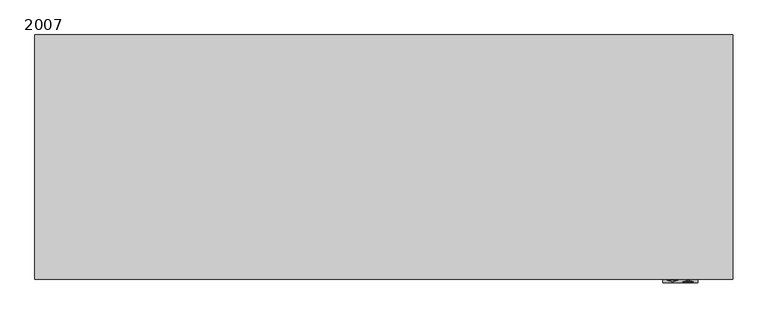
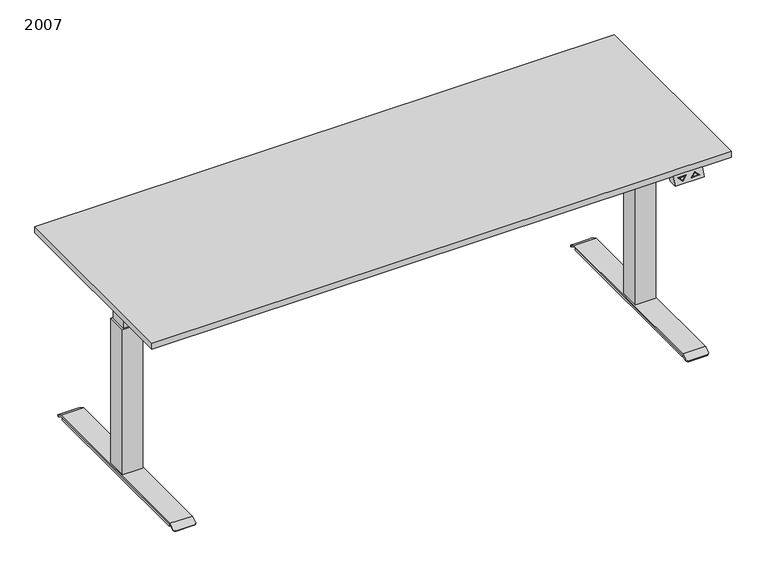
"""IFC4 building model written with IfcOpenShell, lengths in millimetres: furniture geometry, PINTA EQC : 2007."""

from ifc_helpers import new_model, si_unit, point, frame, frame_2d, origin, origin_with_axes, place, context, project, spatial, polyline, circle_curve, trimmed, segment, composite_curve, outline, extrude, faceted_brep, source, transform, mapped, element, save
from ifc_brep_helpers import plane_surface, cylinder_surface, advanced_brep


def furniture_2007_aee1811a(model_context):
    return source(origin(), model_context, "Body", "SolidModel", [
        faceted_brep([(800.0, -710.0, 668.0), (800.0, -680.0, 668.0), (900.0, -680.0, 668.0), (900.0, -710.0, 668.0), (800.0, -700.0, 698.0), (900.0, -700.0, 698.0), (900.0, -670.0, 698.0), (800.0, -670.0, 698.0), (812.5, -702.6491106, 690.0526681), (842.5, -702.6491106, 690.0526681), (827.5, -707.3925271, 675.8224186), (887.5, -706.9174824, 677.2475529), (857.5, -706.9174824, 677.2475529), (872.5, -702.1740659, 691.4778023), (827.5, -706.4980999, 678.5057002), (837.6715729, -703.2815662, 688.1553015), (817.3284271, -703.2815662, 688.1553015), (882.6715729, -706.2850268, 679.1449195), (872.5, -703.0684931, 688.7945208), (862.3284271, -706.2850268, 679.1449195), (842.5, -701.7004273, 689.7364403), (812.5, -701.7004273, 689.7364403), (827.5, -706.4438438, 675.5061908), (837.6715729, -702.3328829, 687.8390737), (827.5, -705.5494166, 678.1894724), (817.3284271, -702.3328829, 687.8390737), (857.5, -705.9687991, 676.9313251), (887.5, -705.9687991, 676.9313251), (872.5, -701.2253826, 691.1615746), (872.5, -702.1198098, 688.478293), (882.6715729, -705.3363436, 678.8286917), (862.3284271, -705.3363436, 678.8286917)], [[[0, 1, 2, 3]], [[4, 5, 6, 7]], [[1, 0, 4, 7]], [[3, 2, 6, 5]], [[0, 3, 5, 4], [8, 9, 10], [11, 12, 13]], [[14, 15, 16]], [[17, 18, 19]], [[2, 1, 7, 6]], [[20, 21, 22], [23, 24, 25]], [[26, 27, 28], [29, 30, 31]], [[21, 20, 9, 8]], [[22, 21, 8, 10]], [[20, 22, 10, 9]], [[27, 26, 12, 11]], [[28, 27, 11, 13]], [[26, 28, 13, 12]], [[24, 23, 15, 14]], [[25, 24, 14, 16]], [[23, 25, 16, 15]], [[30, 29, 18, 17]], [[31, 30, 17, 19]], [[29, 31, 19, 18]]]),
        extrude(outline(polyline([(-920.0, -269.7732113), (920.0, -269.7733158), (920.0, -289.7733158), (-920.0, -289.7732113), (-920.0, -269.7732113)])), frame((0.0, 0.0, 658.0), z_axis=(0.0, 0.0, 1.0), x_axis=(1.0, 0.0, 0.0)), (0.0, 0.0, 1.0), 40.0),
        extrude(outline(polyline([(-920.0, -409.7732114), (920.0, -409.7733158), (920.0, -429.7733158), (-920.0, -429.7732114), (-920.0, -409.7732114)])), frame((0.0, 0.0, 658.0), z_axis=(0.0, 0.0, 1.0), x_axis=(1.0, 0.0, 0.0)), (0.0, 0.0, 1.0), 40.0),
        extrude(outline(polyline([(-1000.0, -700.0), (-1000.0, 0.0), (1000.0, 0.0), (1000.0, -700.0), (-1000.0, -700.0)])), frame((0.0, 0.0, 698.0), z_axis=(0.0, 0.0, 1.0), x_axis=(1.0, 0.0, 0.0)), (0.0, 0.0, 1.0), 22.0),
        advanced_brep(
        [(846.9772339, -670.0, 6.0), (846.9772339, -670.0, 16.0), (846.9772339, -30.0, 16.0), (846.9772339, -30.0, 6.0), (923.0227661, -30.0, 16.0), (923.0227661, -30.0, 6.0), (923.0227661, -670.0, 16.0), (923.0227661, -670.0, 6.0), (846.0, -25.0, 20.0), (846.0, -6.9800481, 9.908827), (846.0, -8.9344616, 6.4188029), (846.0, -26.0437422, 16.0), (846.0, -673.9562578, 16.0), (846.0, -691.0655384, 6.4188029), (846.0, -693.0199519, 9.908827), (846.0, -675.0, 20.0), (924.0, -26.0437422, 16.0), (924.0, -8.9344616, 6.4188029), (924.0, -6.9800481, 9.908827), (924.0, -25.0, 20.0), (924.0, -675.0, 20.0), (924.0, -693.0199519, 9.908827), (924.0, -691.0655384, 6.4188029), (924.0, -673.9562578, 16.0), (854.0, -700.0, 6.0), (916.0, -700.0, 6.0), (854.0, -698.0455865, 2.5099759), (916.0, -698.0455865, 2.5099759), (854.0, -1.9544135, 2.5099759), (916.0, -1.9544135, 2.5099759), (854.0, 0.0, 6.0), (916.0, 0.0, 6.0)],
        [
            (0, 1),
            (1, 2),
            (2, 3),
            (3, 0),
            (2, 4),
            (4, 5),
            (5, 3),
            (4, 6),
            (6, 7),
            (7, 5),
            (6, 1),
            (0, 7),
            (8, 9),
            (9, 10),
            (10, 11),
            (11, 12),
            (12, 13),
            (13, 14),
            (14, 15),
            (15, 8),
            (16, 17),
            (17, 18),
            (18, 19),
            (19, 20),
            (20, 21),
            (21, 22),
            (22, 23),
            (23, 16),
            (15, 20),
            (19, 8),
            (11, 16),
            (23, 12),
            (14, 24, circle_curve(frame((854.0, -693.0199519, 9.908827), z_axis=(0.0, -0.4886033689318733, 0.8725060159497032), x_axis=(0.0, 0.8725060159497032, 0.4886033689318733)), 8.0)),
            (24, 25),
            (25, 21, circle_curve(frame((916.0, -693.0199519, 9.908827), z_axis=(0.0, -0.4886033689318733, 0.8725060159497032), x_axis=(0.0, 0.8725060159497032, 0.4886033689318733)), 8.0)),
            (24, 26),
            (26, 27),
            (27, 25),
            (22, 27, circle_curve(frame((916.0, -691.0655384, 6.4188029), z_axis=(0.0, 0.4886033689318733, -0.8725060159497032), x_axis=(0.0, 0.8725060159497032, 0.4886033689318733)), 8.0)),
            (26, 13, circle_curve(frame((854.0, -691.0655384, 6.4188029), z_axis=(0.0, 0.4886033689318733, -0.8725060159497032), x_axis=(0.0, 0.8725060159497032, 0.4886033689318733)), 8.0)),
            (10, 28, circle_curve(frame((854.0, -8.9344616, 6.4188029), z_axis=(0.0, -0.4886033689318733, -0.8725060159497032), x_axis=(0.0, -0.8725060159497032, 0.4886033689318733)), 8.0)),
            (28, 29),
            (29, 17, circle_curve(frame((916.0, -8.9344616, 6.4188029), z_axis=(0.0, -0.4886033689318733, -0.8725060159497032), x_axis=(0.0, -0.8725060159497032, 0.4886033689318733)), 8.0)),
            (28, 30),
            (30, 31),
            (31, 29),
            (18, 31, circle_curve(frame((916.0, -6.9800481, 9.908827), z_axis=(0.0, 0.4886033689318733, 0.8725060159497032), x_axis=(0.0, -0.8725060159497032, 0.4886033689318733)), 8.0)),
            (30, 9, circle_curve(frame((854.0, -6.9800481, 9.908827), z_axis=(0.0, 0.4886033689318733, 0.8725060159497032), x_axis=(0.0, -0.8725060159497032, 0.4886033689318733)), 8.0)),
        ],
        [
            plane_surface(frame((846.9772339, -670.0, 16.0), z_axis=(-1.0, 0.0, 0.0), x_axis=(0.0, 0.0, -1.0))),
            plane_surface(frame((846.9772339, -30.0, 16.0), z_axis=(0.0, 1.0, 0.0), x_axis=(0.0, 0.0, -1.0))),
            plane_surface(frame((923.0227661, -30.0, 16.0), z_axis=(1.0, 0.0, 0.0), x_axis=(0.0, 0.0, -1.0))),
            plane_surface(frame((923.0227661, -670.0, 16.0), z_axis=(0.0, -1.0, 0.0), x_axis=(0.0, 0.0, -1.0))),
            plane_surface(frame((846.9772339, -673.4188232, 6.0), z_axis=(0.0, 0.0, -1.0), x_axis=(0.0, -1.0, 0.0))),
            plane_surface(frame((846.0, -350.0, 20.0), z_axis=(-1.0, 0.0, 0.0), x_axis=(0.0, -1.0, 0.0))),
            plane_surface(frame((924.0, -350.0, 20.0), z_axis=(1.0, 0.0, 0.0), x_axis=(0.0, 1.0, 0.0))),
            plane_surface(frame((846.0, -25.0, 20.0), z_axis=(0.0, 0.0, 1.0), x_axis=(1.0, 0.0, 0.0))),
            plane_surface(frame((846.0, -673.9562578, 16.0), z_axis=(0.0, 0.0, -1.0), x_axis=(1.0, 0.0, 0.0))),
            plane_surface(frame((846.0, -675.0, 20.0), z_axis=(0.0, -0.4886033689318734, 0.8725060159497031), x_axis=(1.0, 0.0, 0.0))),
            plane_surface(frame((846.0, -700.0, 6.0), z_axis=(0.0, -0.872506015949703, -0.4886033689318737), x_axis=(1.0, 0.0, 0.0))),
            plane_surface(frame((846.0, -698.0455865, 2.5099759), z_axis=(0.0, 0.4886033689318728, -0.8725060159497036), x_axis=(1.0, 0.0, 0.0))),
            plane_surface(frame((846.0, -26.0437422, 16.0), z_axis=(0.0, -0.4886033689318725, -0.8725060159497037), x_axis=(1.0, 0.0, 0.0))),
            plane_surface(frame((846.0, -1.9544135, 2.5099759), z_axis=(0.0, 0.8725060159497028, -0.48860336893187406), x_axis=(1.0, 0.0, 0.0))),
            plane_surface(frame((846.0, 0.0, 6.0), z_axis=(0.0, 0.48860336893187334, 0.8725060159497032), x_axis=(1.0, 0.0, 0.0))),
            cylinder_surface(frame((854.0, -693.0199519, 9.908827), z_axis=(0.0, -0.4886033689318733, 0.8725060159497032), x_axis=(0.0, 0.8725060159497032, 0.4886033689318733)), 8.0),
            cylinder_surface(frame((916.0, -693.0199519, 9.908827), z_axis=(0.0, -0.4886033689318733, 0.8725060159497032), x_axis=(0.0, 0.8725060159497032, 0.4886033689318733)), 8.0),
            cylinder_surface(frame((854.0, -6.9800481, 9.908827), z_axis=(0.0, 0.4886033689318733, 0.8725060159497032), x_axis=(0.0, -0.8725060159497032, 0.4886033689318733)), 8.0),
            cylinder_surface(frame((916.0, -6.9800481, 9.908827), z_axis=(0.0, 0.4886033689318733, 0.8725060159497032), x_axis=(0.0, -0.8725060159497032, 0.4886033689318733)), 8.0),
        ],
        [
            (0, [[1, 2, 3, 4]]),
            (1, [[-3, 5, 6, 7]]),
            (2, [[-6, 8, 9, 10]]),
            (3, [[-9, 11, -1, 12]]),
            (4, [[-4, -7, -10, -12]]),
            (5, [[13, 14, 15, 16, 17, 18, 19, 20]]),
            (6, [[21, 22, 23, 24, 25, 26, 27, 28]]),
            (7, [[29, -24, 30, -20]]),
            (8, [[31, -28, 32, -16], [-11, -8, -5, -2]]),
            (9, [[-19, 33, 34, 35, -25, -29]]),
            (10, [[36, 37, 38, -34]]),
            (11, [[-27, 39, -37, 40, -17, -32]]),
            (12, [[-15, 41, 42, 43, -21, -31]]),
            (13, [[44, 45, 46, -42]]),
            (14, [[-23, 47, -45, 48, -13, -30]]),
            (15, [[-40, -36, -33, -18]]),
            (16, [[-35, -38, -39, -26]]),
            (17, [[-48, -44, -41, -14]]),
            (18, [[-43, -46, -47, -22]]),
        ],
    ),
        faceted_brep([(719.4551307, -410.0, 698.0), (902.9996948, -410.0, 698.0), (902.9996948, -650.0, 698.0), (919.4551307, -650.0, 698.0), (923.0, -650.0, 698.0), (923.0, -50.0, 698.0), (919.4551307, -50.0, 698.0), (902.9996948, -50.0, 698.0), (902.9996948, -290.0, 698.0), (719.4551307, -290.0, 698.0), (719.4551307, -410.0, 635.2327881), (719.4551307, -290.0, 635.2327881), (919.4551307, -290.0, 635.2327881), (919.4551307, -253.8252348, 635.2327881), (923.0, -253.8252348, 635.2327881), (923.0, -446.1747652, 635.2327881), (919.4551307, -446.1747652, 635.2327881), (919.4551307, -410.0, 635.2327881), (902.9996948, -290.0, 694.9093018), (919.4551307, -290.0, 694.9093018), (919.4551307, -410.0, 694.9093018), (902.9996948, -410.0, 694.9093018), (919.4551307, -650.0, 694.9093018), (902.9996948, -650.0, 694.9093018), (919.4551307, -50.0, 694.9093018), (902.9996948, -50.0, 694.9093018), (919.4551307, -51.1249222, 694.9093018), (919.4551307, -648.8750778, 694.9093018), (919.4551307, -58.5505036, 674.5076845), (919.4551307, -641.4494964, 674.5076845), (923.0, -58.5505036, 674.5076845), (923.0, -641.4494964, 674.5076845)], [[[0, 1, 2, 3, 4, 5, 6, 7, 8, 9]], [[10, 11, 12, 13, 14, 15, 16, 17]], [[9, 11, 10, 0]], [[11, 9, 8, 18, 19, 12]], [[17, 20, 21, 1, 0, 10]], [[22, 3, 2, 23]], [[24, 25, 7, 6]], [[24, 26, 19, 18, 25]], [[23, 21, 20, 27, 22]], [[2, 1, 21, 23]], [[25, 18, 8, 7]], [[13, 12, 19, 26, 28]], [[29, 27, 20, 17, 16]], [[15, 14, 30, 5, 4, 31]], [[16, 15, 31, 29]], [[22, 27, 3]], [[6, 26, 24]], [[4, 3, 27, 29, 31]], [[28, 30, 14, 13]], [[30, 28, 26, 6, 5]]]),
        extrude(outline(composite_curve([segment(trimmed(circle_curve(frame_2d((885.0, -655.0)), 25.0), [point((910.0, -655.0))], [point((860.0, -655.0))], False, "CARTESIAN"), True, "CONTINUOUS"), segment(trimmed(circle_curve(frame_2d((885.0, -655.0)), 25.0), [point((860.0, -655.0))], [point((910.0, -655.0))], False, "CARTESIAN"), True, "CONTINUOUS")], self_intersect=False)), origin_with_axes(), (0.0, 0.0, 1.0), 6.0),
        extrude(outline(composite_curve([segment(trimmed(circle_curve(frame_2d((885.0, -45.0)), 25.0), [point((910.0, -45.0))], [point((860.0, -45.0))], False, "CARTESIAN"), True, "CONTINUOUS"), segment(trimmed(circle_curve(frame_2d((885.0, -45.0)), 25.0), [point((860.0, -45.0))], [point((910.0, -45.0))], False, "CARTESIAN"), True, "CONTINUOUS")], self_intersect=False)), origin_with_axes(), (0.0, 0.0, 1.0), 6.0),
        faceted_brep([(850.0, -315.0, 550.0), (850.0, -384.9621325, 550.0), (920.0, -384.9621325, 550.0), (920.0, -315.0, 550.0), (915.0, -320.0, 550.0), (915.0, -379.9621325, 550.0), (855.0, -379.9621325, 550.0), (855.0, -320.0, 550.0), (850.0, -315.0, 20.0), (920.0, -315.0, 20.0), (920.0, -384.9621325, 20.0), (850.0, -384.9621325, 20.0), (855.0, -320.0, 592.616394), (855.0, -379.9621325, 592.616394), (915.0, -379.9621325, 592.616394), (915.0, -320.0, 592.616394), (910.0, -325.0, 592.616394), (910.0, -374.9621325, 592.616394), (860.0, -374.9621325, 592.616394), (860.0, -325.0, 592.616394), (860.0, -325.0, 635.2327881), (860.0, -374.9621325, 635.2327881), (910.0, -374.9621325, 635.2327881), (910.0, -325.0, 635.2327881)], [[[0, 1, 2, 3], [4, 5, 6, 7]], [[8, 9, 10, 11]], [[3, 9, 8, 0]], [[2, 10, 9, 3]], [[1, 11, 10, 2]], [[0, 8, 11, 1]], [[12, 13, 14, 15], [16, 17, 18, 19]], [[15, 4, 7, 12]], [[14, 5, 4, 15]], [[13, 6, 5, 14]], [[12, 7, 6, 13]], [[20, 21, 22, 23]], [[23, 16, 19, 20]], [[22, 17, 16, 23]], [[21, 18, 17, 22]], [[20, 19, 18, 21]]]),
        advanced_brep(
        [(-846.9772339, -670.0, 6.0), (-846.9772339, -30.0, 6.0), (-846.9772339, -30.0, 16.0), (-846.9772339, -670.0, 16.0), (-923.0227661, -30.0, 6.0), (-923.0227661, -30.0, 16.0), (-923.0227661, -670.0, 6.0), (-923.0227661, -670.0, 16.0), (-846.0, -25.0, 20.0), (-846.0, -675.0, 20.0), (-846.0, -693.0199519, 9.908827), (-846.0, -691.0655384, 6.4188029), (-846.0, -673.9562578, 16.0), (-846.0, -26.0437422, 16.0), (-846.0, -8.9344616, 6.4188029), (-846.0, -6.9800481, 9.908827), (-924.0, -26.0437422, 16.0), (-924.0, -673.9562578, 16.0), (-924.0, -691.0655384, 6.4188029), (-924.0, -693.0199519, 9.908827), (-924.0, -675.0, 20.0), (-924.0, -25.0, 20.0), (-924.0, -6.9800481, 9.908827), (-924.0, -8.9344616, 6.4188029), (-916.0, -700.0, 6.0), (-854.0, -700.0, 6.0), (-916.0, -698.0455865, 2.5099759), (-854.0, -698.0455865, 2.5099759), (-916.0, -1.9544135, 2.5099759), (-854.0, -1.9544135, 2.5099759), (-916.0, 0.0, 6.0), (-854.0, 0.0, 6.0)],
        [
            (0, 1),
            (1, 2),
            (2, 3),
            (3, 0),
            (1, 4),
            (4, 5),
            (5, 2),
            (4, 6),
            (6, 7),
            (7, 5),
            (6, 0),
            (3, 7),
            (8, 9),
            (9, 10),
            (10, 11),
            (11, 12),
            (12, 13),
            (13, 14),
            (14, 15),
            (15, 8),
            (16, 17),
            (17, 18),
            (18, 19),
            (19, 20),
            (20, 21),
            (21, 22),
            (22, 23),
            (23, 16),
            (8, 21),
            (20, 9),
            (12, 17),
            (16, 13),
            (19, 24, circle_curve(frame((-916.0, -693.0199519, 9.908827), z_axis=(0.0, -0.4886033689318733, 0.8725060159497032), x_axis=(0.0, 0.8725060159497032, 0.4886033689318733)), 8.0)),
            (24, 25),
            (25, 10, circle_curve(frame((-854.0, -693.0199519, 9.908827), z_axis=(0.0, -0.4886033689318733, 0.8725060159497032), x_axis=(0.0, 0.8725060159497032, 0.4886033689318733)), 8.0)),
            (24, 26),
            (26, 27),
            (27, 25),
            (11, 27, circle_curve(frame((-854.0, -691.0655384, 6.4188029), z_axis=(0.0, 0.4886033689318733, -0.8725060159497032), x_axis=(0.0, 0.8725060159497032, 0.4886033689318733)), 8.0)),
            (26, 18, circle_curve(frame((-916.0, -691.0655384, 6.4188029), z_axis=(0.0, 0.4886033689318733, -0.8725060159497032), x_axis=(0.0, 0.8725060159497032, 0.4886033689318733)), 8.0)),
            (23, 28, circle_curve(frame((-916.0, -8.9344616, 6.4188029), z_axis=(0.0, -0.4886033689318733, -0.8725060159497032), x_axis=(0.0, -0.8725060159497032, 0.4886033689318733)), 8.0)),
            (28, 29),
            (29, 14, circle_curve(frame((-854.0, -8.9344616, 6.4188029), z_axis=(0.0, -0.4886033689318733, -0.8725060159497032), x_axis=(0.0, -0.8725060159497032, 0.4886033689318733)), 8.0)),
            (28, 30),
            (30, 31),
            (31, 29),
            (15, 31, circle_curve(frame((-854.0, -6.9800481, 9.908827), z_axis=(0.0, 0.4886033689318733, 0.8725060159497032), x_axis=(0.0, -0.8725060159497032, 0.4886033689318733)), 8.0)),
            (30, 22, circle_curve(frame((-916.0, -6.9800481, 9.908827), z_axis=(0.0, 0.4886033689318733, 0.8725060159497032), x_axis=(0.0, -0.8725060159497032, 0.4886033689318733)), 8.0)),
        ],
        [
            plane_surface(frame((-846.9772339, -670.0, 16.0), z_axis=(1.0, 0.0, 0.0), x_axis=(0.0, 0.0, -1.0))),
            plane_surface(frame((-846.9772339, -30.0, 16.0), z_axis=(0.0, 1.0, 0.0), x_axis=(0.0, 0.0, -1.0))),
            plane_surface(frame((-923.0227661, -30.0, 16.0), z_axis=(-1.0, 0.0, 0.0), x_axis=(0.0, 0.0, -1.0))),
            plane_surface(frame((-923.0227661, -670.0, 16.0), z_axis=(0.0, -1.0, 0.0), x_axis=(0.0, 0.0, -1.0))),
            plane_surface(frame((-846.9772339, -673.4188232, 6.0), z_axis=(0.0, 0.0, -1.0), x_axis=(0.0, -1.0, 0.0))),
            plane_surface(frame((-846.0, -350.0, 20.0), z_axis=(1.0, 0.0, 0.0), x_axis=(0.0, -1.0, 0.0))),
            plane_surface(frame((-924.0, -350.0, 20.0), z_axis=(-1.0, 0.0, 0.0), x_axis=(0.0, 1.0, 0.0))),
            plane_surface(frame((-846.0, -25.0, 20.0), z_axis=(0.0, 0.0, 1.0), x_axis=(-1.0, 0.0, 0.0))),
            plane_surface(frame((-846.0, -673.9562578, 16.0), z_axis=(0.0, 0.0, -1.0), x_axis=(-1.0, 0.0, 0.0))),
            plane_surface(frame((-846.0, -675.0, 20.0), z_axis=(0.0, -0.4886033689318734, 0.8725060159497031), x_axis=(-1.0, 0.0, 0.0))),
            plane_surface(frame((-846.0, -700.0, 6.0), z_axis=(0.0, -0.872506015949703, -0.4886033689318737), x_axis=(-1.0, 0.0, 0.0))),
            plane_surface(frame((-846.0, -698.0455865, 2.5099759), z_axis=(0.0, 0.4886033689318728, -0.8725060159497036), x_axis=(-1.0, 0.0, 0.0))),
            plane_surface(frame((-846.0, -26.0437422, 16.0), z_axis=(0.0, -0.4886033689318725, -0.8725060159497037), x_axis=(-1.0, 0.0, 0.0))),
            plane_surface(frame((-846.0, -1.9544135, 2.5099759), z_axis=(0.0, 0.8725060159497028, -0.48860336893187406), x_axis=(-1.0, 0.0, 0.0))),
            plane_surface(frame((-846.0, 0.0, 6.0), z_axis=(0.0, 0.48860336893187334, 0.8725060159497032), x_axis=(-1.0, 0.0, 0.0))),
            cylinder_surface(frame((-854.0, -693.0199519, 9.908827), z_axis=(0.0, -0.4886033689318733, 0.8725060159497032), x_axis=(0.0, 0.8725060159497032, 0.4886033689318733)), 8.0),
            cylinder_surface(frame((-916.0, -693.0199519, 9.908827), z_axis=(0.0, -0.4886033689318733, 0.8725060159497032), x_axis=(0.0, 0.8725060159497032, 0.4886033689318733)), 8.0),
            cylinder_surface(frame((-854.0, -6.9800481, 9.908827), z_axis=(0.0, 0.4886033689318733, 0.8725060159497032), x_axis=(0.0, -0.8725060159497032, 0.4886033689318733)), 8.0),
            cylinder_surface(frame((-916.0, -6.9800481, 9.908827), z_axis=(0.0, 0.4886033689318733, 0.8725060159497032), x_axis=(0.0, -0.8725060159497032, 0.4886033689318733)), 8.0),
        ],
        [
            (0, [[1, 2, 3, 4]]),
            (1, [[5, 6, 7, -2]]),
            (2, [[8, 9, 10, -6]]),
            (3, [[11, -4, 12, -9]]),
            (4, [[-11, -8, -5, -1]]),
            (5, [[13, 14, 15, 16, 17, 18, 19, 20]]),
            (6, [[21, 22, 23, 24, 25, 26, 27, 28]]),
            (7, [[-13, 29, -25, 30]]),
            (8, [[-17, 31, -21, 32], [-3, -7, -10, -12]]),
            (9, [[-30, -24, 33, 34, 35, -14]]),
            (10, [[-34, 36, 37, 38]]),
            (11, [[-31, -16, 39, -37, 40, -22]]),
            (12, [[-32, -28, 41, 42, 43, -18]]),
            (13, [[-42, 44, 45, 46]]),
            (14, [[-29, -20, 47, -45, 48, -26]]),
            (15, [[-15, -35, -38, -39]]),
            (16, [[-23, -40, -36, -33]]),
            (17, [[-19, -43, -46, -47]]),
            (18, [[-27, -48, -44, -41]]),
        ],
    ),
        faceted_brep([(-719.4551307, -410.0, 698.0), (-719.4551307, -290.0, 698.0), (-902.9996948, -290.0, 698.0), (-902.9996948, -50.0, 698.0), (-919.4551307, -50.0, 698.0), (-923.0, -50.0, 698.0), (-923.0, -650.0, 698.0), (-919.4551307, -650.0, 698.0), (-902.9996948, -650.0, 698.0), (-902.9996948, -410.0, 698.0), (-719.4551307, -410.0, 635.2327881), (-919.4551307, -410.0, 635.2327881), (-919.4551307, -446.1747652, 635.2327881), (-923.0, -446.1747652, 635.2327881), (-923.0, -253.8252348, 635.2327881), (-919.4551307, -253.8252348, 635.2327881), (-919.4551307, -290.0, 635.2327881), (-719.4551307, -290.0, 635.2327881), (-919.4551307, -290.0, 694.9093018), (-902.9996948, -290.0, 694.9093018), (-902.9996948, -410.0, 694.9093018), (-919.4551307, -410.0, 694.9093018), (-919.4551307, -650.0, 694.9093018), (-902.9996948, -650.0, 694.9093018), (-919.4551307, -50.0, 694.9093018), (-902.9996948, -50.0, 694.9093018), (-919.4551307, -648.8750778, 694.9093018), (-919.4551307, -51.1249222, 694.9093018), (-919.4551307, -641.4494964, 674.5076845), (-919.4551307, -58.5505036, 674.5076845), (-923.0, -641.4494964, 674.5076845), (-923.0, -58.5505036, 674.5076845)], [[[0, 1, 2, 3, 4, 5, 6, 7, 8, 9]], [[10, 11, 12, 13, 14, 15, 16, 17]], [[1, 0, 10, 17]], [[17, 16, 18, 19, 2, 1]], [[11, 10, 0, 9, 20, 21]], [[22, 23, 8, 7]], [[24, 4, 3, 25]], [[23, 22, 26, 21, 20]], [[24, 25, 19, 18, 27]], [[8, 23, 20, 9]], [[25, 3, 2, 19]], [[28, 12, 11, 21, 26]], [[15, 29, 27, 18, 16]], [[13, 30, 6, 5, 31, 14]], [[12, 28, 30, 13]], [[22, 7, 26]], [[4, 24, 27]], [[6, 30, 28, 26, 7]], [[29, 15, 14, 31]], [[31, 5, 4, 27, 29]]]),
        extrude(outline(composite_curve([segment(trimmed(circle_curve(frame_2d((-885.0, -655.0)), 25.0), [point((-910.0, -655.0))], [point((-860.0, -655.0))], False, "CARTESIAN"), True, "CONTINUOUS"), segment(trimmed(circle_curve(frame_2d((-885.0, -655.0)), 25.0), [point((-860.0, -655.0))], [point((-910.0, -655.0))], False, "CARTESIAN"), True, "CONTINUOUS")], self_intersect=False)), origin_with_axes(), (0.0, 0.0, 1.0), 6.0),
        extrude(outline(composite_curve([segment(trimmed(circle_curve(frame_2d((-885.0, -45.0)), 25.0), [point((-910.0, -45.0))], [point((-860.0, -45.0))], False, "CARTESIAN"), True, "CONTINUOUS"), segment(trimmed(circle_curve(frame_2d((-885.0, -45.0)), 25.0), [point((-860.0, -45.0))], [point((-910.0, -45.0))], False, "CARTESIAN"), True, "CONTINUOUS")], self_intersect=False)), origin_with_axes(), (0.0, 0.0, 1.0), 6.0),
        faceted_brep([(-850.0, -315.0, 550.0), (-920.0, -315.0, 550.0), (-920.0, -384.9621325, 550.0), (-850.0, -384.9621325, 550.0), (-915.0, -320.0, 550.0), (-855.0, -320.0, 550.0), (-855.0, -379.9621325, 550.0), (-915.0, -379.9621325, 550.0), (-850.0, -315.0, 20.0), (-850.0, -384.9621325, 20.0), (-920.0, -384.9621325, 20.0), (-920.0, -315.0, 20.0), (-855.0, -320.0, 592.616394), (-915.0, -320.0, 592.616394), (-915.0, -379.9621325, 592.616394), (-855.0, -379.9621325, 592.616394), (-910.0, -325.0, 592.616394), (-860.0, -325.0, 592.616394), (-860.0, -374.9621325, 592.616394), (-910.0, -374.9621325, 592.616394), (-860.0, -325.0, 635.2327881), (-910.0, -325.0, 635.2327881), (-910.0, -374.9621325, 635.2327881), (-860.0, -374.9621325, 635.2327881)], [[[0, 1, 2, 3], [4, 5, 6, 7]], [[8, 9, 10, 11]], [[1, 0, 8, 11]], [[2, 1, 11, 10]], [[3, 2, 10, 9]], [[0, 3, 9, 8]], [[12, 13, 14, 15], [16, 17, 18, 19]], [[13, 12, 5, 4]], [[14, 13, 4, 7]], [[15, 14, 7, 6]], [[12, 15, 6, 5]], [[20, 21, 22, 23]], [[21, 20, 17, 16]], [[22, 21, 16, 19]], [[23, 22, 19, 18]], [[20, 23, 18, 17]]]),
    ])


if __name__ == "__main__":
    model = new_model("IFC4")
    model_context = context("Model", 3, world=origin())
    ifc_project = project(units=[si_unit("LENGTHUNIT", "METRE", prefix="MILLI")], contexts=[model_context])
    site = spatial("IfcSite", under=ifc_project)
    building = spatial("IfcBuilding", under=site)
    placement = place(None, origin())
    furniture_2007_shape = furniture_2007_aee1811a(model_context)
    element("IfcFurniture", 1, ObjectType="PINTA EQC : 2007", at=placement, inside=building, context=model_context, shape_type="MappedRepresentation", body=[
        mapped(furniture_2007_shape, transform((0.0, 0.0, 0.0), x_axis=(1.0, 0.0, 0.0), y_axis=(0.0, 1.0, 0.0), z_axis=(0.0, 0.0, 1.0))),
    ])
    save(model, "model.ifc")
